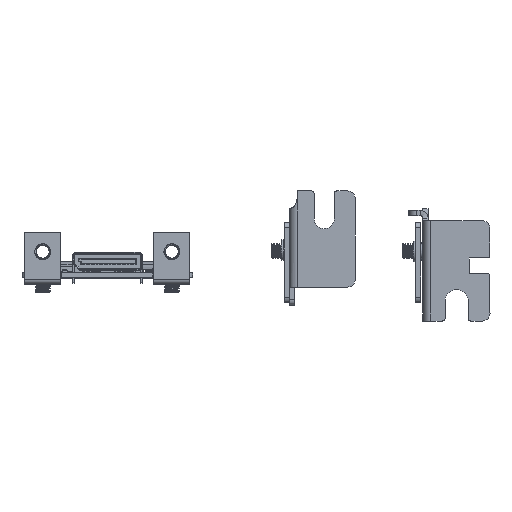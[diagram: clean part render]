
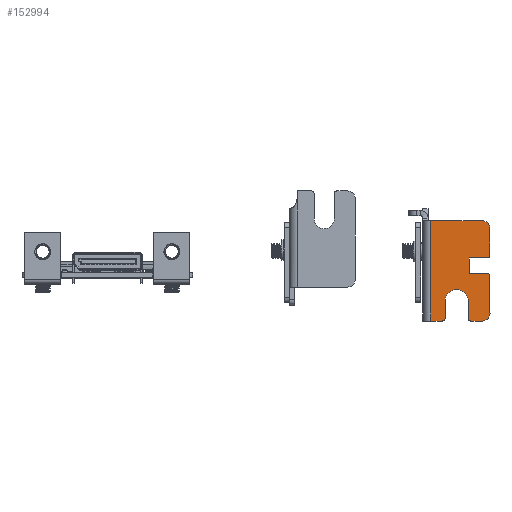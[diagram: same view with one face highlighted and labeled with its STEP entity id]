
A CAD part, front view. The second image highlights one B-rep face of the part: STEP entity #152994.
In plain terms, the highlighted planar face has unit normal (0, -1, 0) as drawn and (0, 1, 0) by its records, which use the part's own axes.
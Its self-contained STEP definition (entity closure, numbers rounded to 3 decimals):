
#152809 = VERTEX_POINT('',#152810);
#152810 = CARTESIAN_POINT('',(-10.973,60.569,3.8));
#152816 = EDGE_CURVE('',#152809,#152817,#152819,.T.);
#152817 = VERTEX_POINT('',#152818);
#152818 = CARTESIAN_POINT('',(-10.973,60.569,1.5));
#152819 = LINE('',#152820,#152821);
#152820 = CARTESIAN_POINT('',(-10.973,60.569,13.));
#152821 = VECTOR('',#152822,1.);
#152822 = DIRECTION('',(-0.,-0.,-1.));
#152839 = VERTEX_POINT('',#152840);
#152840 = CARTESIAN_POINT('',(-10.973,60.569,9.3));
#152857 = VERTEX_POINT('',#152858);
#152858 = CARTESIAN_POINT('',(-10.973,60.569,11.5));
#152864 = EDGE_CURVE('',#152857,#152839,#152865,.T.);
#152865 = LINE('',#152866,#152867);
#152866 = CARTESIAN_POINT('',(-10.973,60.569,13.));
#152867 = VECTOR('',#152868,1.);
#152868 = DIRECTION('',(-0.,-0.,-1.));
#152879 = VERTEX_POINT('',#152880);
#152880 = CARTESIAN_POINT('',(6.927,60.569,13.));
#152888 = EDGE_CURVE('',#152889,#152879,#152891,.T.);
#152889 = VERTEX_POINT('',#152890);
#152890 = CARTESIAN_POINT('',(1.727,60.569,13.));
#152891 = LINE('',#152892,#152893);
#152892 = CARTESIAN_POINT('',(0.,60.569,13.));
#152893 = VECTOR('',#152894,1.);
#152894 = DIRECTION('',(1.,0.,0.));
#152919 = VERTEX_POINT('',#152920);
#152920 = CARTESIAN_POINT('',(-2.273,60.569,13.));
#152928 = EDGE_CURVE('',#152929,#152919,#152931,.T.);
#152929 = VERTEX_POINT('',#152930);
#152930 = CARTESIAN_POINT('',(-9.473,60.569,13.));
#152931 = LINE('',#152932,#152933);
#152932 = CARTESIAN_POINT('',(0.,60.569,13.));
#152933 = VECTOR('',#152934,1.);
#152934 = DIRECTION('',(1.,0.,0.));
#152958 = EDGE_CURVE('',#152959,#152961,#152963,.T.);
#152959 = VERTEX_POINT('',#152960);
#152960 = CARTESIAN_POINT('',(8.427,60.569,11.5));
#152961 = VERTEX_POINT('',#152962);
#152962 = CARTESIAN_POINT('',(8.427,60.569,1.5));
#152963 = LINE('',#152964,#152965);
#152964 = CARTESIAN_POINT('',(8.427,60.569,13.));
#152965 = VECTOR('',#152966,1.);
#152966 = DIRECTION('',(-0.,-0.,-1.));
#152994 = ADVANCED_FACE('',(#152995),#153103,.T.);
#152995 = FACE_BOUND('',#152996,.T.);
#152996 = EDGE_LOOP('',(#152997,#152998,#153005,#153006,#153012,#153013,
    #153022,#153030,#153039,#153047,#153054,#153055,#153062,#153063,
    #153072,#153080,#153088,#153096));
#152997 = ORIENTED_EDGE('',*,*,#152888,.T.);
#152998 = ORIENTED_EDGE('',*,*,#152999,.T.);
#152999 = EDGE_CURVE('',#152879,#152959,#153000,.T.);
#153000 = CIRCLE('',#153001,1.5);
#153001 = AXIS2_PLACEMENT_3D('',#153002,#153003,#153004);
#153002 = CARTESIAN_POINT('',(6.927,60.569,11.5));
#153003 = DIRECTION('',(0.,1.,0.));
#153004 = DIRECTION('',(0.,-0.,1.));
#153005 = ORIENTED_EDGE('',*,*,#152958,.T.);
#153006 = ORIENTED_EDGE('',*,*,#153007,.T.);
#153007 = EDGE_CURVE('',#152961,#152817,#153008,.T.);
#153008 = LINE('',#153009,#153010);
#153009 = CARTESIAN_POINT('',(-10.973,60.569,1.5));
#153010 = VECTOR('',#153011,1.);
#153011 = DIRECTION('',(-1.,0.,-0.));
#153012 = ORIENTED_EDGE('',*,*,#152816,.F.);
#153013 = ORIENTED_EDGE('',*,*,#153014,.T.);
#153014 = EDGE_CURVE('',#152809,#153015,#153017,.T.);
#153015 = VERTEX_POINT('',#153016);
#153016 = CARTESIAN_POINT('',(-10.473,60.569,4.3));
#153017 = CIRCLE('',#153018,0.5);
#153018 = AXIS2_PLACEMENT_3D('',#153019,#153020,#153021);
#153019 = CARTESIAN_POINT('',(-10.473,60.569,3.8));
#153020 = DIRECTION('',(0.,1.,0.));
#153021 = DIRECTION('',(0.,-0.,1.));
#153022 = ORIENTED_EDGE('',*,*,#153023,.F.);
#153023 = EDGE_CURVE('',#153024,#153015,#153026,.T.);
#153024 = VERTEX_POINT('',#153025);
#153025 = CARTESIAN_POINT('',(-7.123,60.569,4.3));
#153026 = LINE('',#153027,#153028);
#153027 = CARTESIAN_POINT('',(0.,60.569,4.3));
#153028 = VECTOR('',#153029,1.);
#153029 = DIRECTION('',(-1.,0.,0.));
#153030 = ORIENTED_EDGE('',*,*,#153031,.F.);
#153031 = EDGE_CURVE('',#153032,#153024,#153034,.T.);
#153032 = VERTEX_POINT('',#153033);
#153033 = CARTESIAN_POINT('',(-7.123,60.569,8.8));
#153034 = CIRCLE('',#153035,2.25);
#153035 = AXIS2_PLACEMENT_3D('',#153036,#153037,#153038);
#153036 = CARTESIAN_POINT('',(-7.123,60.569,6.55));
#153037 = DIRECTION('',(0.,1.,0.));
#153038 = DIRECTION('',(0.,-0.,1.));
#153039 = ORIENTED_EDGE('',*,*,#153040,.T.);
#153040 = EDGE_CURVE('',#153032,#153041,#153043,.T.);
#153041 = VERTEX_POINT('',#153042);
#153042 = CARTESIAN_POINT('',(-10.473,60.569,8.8));
#153043 = LINE('',#153044,#153045);
#153044 = CARTESIAN_POINT('',(0.,60.569,8.8));
#153045 = VECTOR('',#153046,1.);
#153046 = DIRECTION('',(-1.,0.,0.));
#153047 = ORIENTED_EDGE('',*,*,#153048,.T.);
#153048 = EDGE_CURVE('',#153041,#152839,#153049,.T.);
#153049 = CIRCLE('',#153050,0.5);
#153050 = AXIS2_PLACEMENT_3D('',#153051,#153052,#153053);
#153051 = CARTESIAN_POINT('',(-10.473,60.569,9.3));
#153052 = DIRECTION('',(0.,1.,0.));
#153053 = DIRECTION('',(0.,-0.,1.));
#153054 = ORIENTED_EDGE('',*,*,#152864,.F.);
#153055 = ORIENTED_EDGE('',*,*,#153056,.T.);
#153056 = EDGE_CURVE('',#152857,#152929,#153057,.T.);
#153057 = CIRCLE('',#153058,1.5);
#153058 = AXIS2_PLACEMENT_3D('',#153059,#153060,#153061);
#153059 = CARTESIAN_POINT('',(-9.473,60.569,11.5));
#153060 = DIRECTION('',(0.,1.,0.));
#153061 = DIRECTION('',(0.,-0.,1.));
#153062 = ORIENTED_EDGE('',*,*,#152928,.T.);
#153063 = ORIENTED_EDGE('',*,*,#153064,.T.);
#153064 = EDGE_CURVE('',#152919,#153065,#153067,.T.);
#153065 = VERTEX_POINT('',#153066);
#153066 = CARTESIAN_POINT('',(-1.773,60.569,12.5));
#153067 = CIRCLE('',#153068,0.5);
#153068 = AXIS2_PLACEMENT_3D('',#153069,#153070,#153071);
#153069 = CARTESIAN_POINT('',(-2.273,60.569,12.5));
#153070 = DIRECTION('',(0.,1.,0.));
#153071 = DIRECTION('',(0.,-0.,1.));
#153072 = ORIENTED_EDGE('',*,*,#153073,.F.);
#153073 = EDGE_CURVE('',#153074,#153065,#153076,.T.);
#153074 = VERTEX_POINT('',#153075);
#153075 = CARTESIAN_POINT('',(-1.773,60.569,9.));
#153076 = LINE('',#153077,#153078);
#153077 = CARTESIAN_POINT('',(-1.773,60.569,13.));
#153078 = VECTOR('',#153079,1.);
#153079 = DIRECTION('',(0.,-0.,1.));
#153080 = ORIENTED_EDGE('',*,*,#153081,.F.);
#153081 = EDGE_CURVE('',#153082,#153074,#153084,.T.);
#153082 = VERTEX_POINT('',#153083);
#153083 = CARTESIAN_POINT('',(1.227,60.569,9.));
#153084 = LINE('',#153085,#153086);
#153085 = CARTESIAN_POINT('',(0.,60.569,9.));
#153086 = VECTOR('',#153087,1.);
#153087 = DIRECTION('',(-1.,0.,0.));
#153088 = ORIENTED_EDGE('',*,*,#153089,.T.);
#153089 = EDGE_CURVE('',#153082,#153090,#153092,.T.);
#153090 = VERTEX_POINT('',#153091);
#153091 = CARTESIAN_POINT('',(1.227,60.569,12.5));
#153092 = LINE('',#153093,#153094);
#153093 = CARTESIAN_POINT('',(1.227,60.569,13.));
#153094 = VECTOR('',#153095,1.);
#153095 = DIRECTION('',(0.,-0.,1.));
#153096 = ORIENTED_EDGE('',*,*,#153097,.T.);
#153097 = EDGE_CURVE('',#153090,#152889,#153098,.T.);
#153098 = CIRCLE('',#153099,0.5);
#153099 = AXIS2_PLACEMENT_3D('',#153100,#153101,#153102);
#153100 = CARTESIAN_POINT('',(1.727,60.569,12.5));
#153101 = DIRECTION('',(0.,1.,0.));
#153102 = DIRECTION('',(0.,-0.,1.));
#153103 = PLANE('',#153104);
#153104 = AXIS2_PLACEMENT_3D('',#153105,#153106,#153107);
#153105 = CARTESIAN_POINT('',(0.,60.569,13.));
#153106 = DIRECTION('',(0.,1.,0.));
#153107 = DIRECTION('',(0.,-0.,1.));
